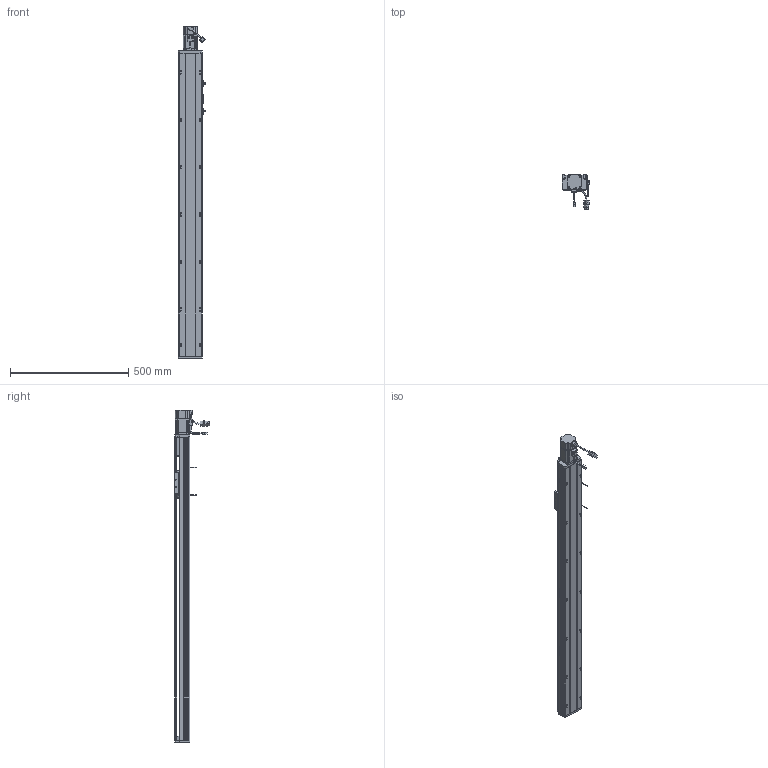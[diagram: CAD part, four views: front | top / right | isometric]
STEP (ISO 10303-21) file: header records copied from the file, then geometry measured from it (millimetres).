
FILE_DESCRIPTION (( 'STEP AP214' ), '1' );
FILE_NAME ('CTH10-1050.STEP', '2019-11-18T08:25:30', ( '微软用户' ), ( '微软中国' ), 'SwSTEP 2.0', 'SolidWorks 2017', '' );
FILE_SCHEMA (( 'AUTOMOTIVE_DESIGN' ));
Length unit declared in the file: millimetre
Products named in the file (34): COL12B-粣遠; 粣創揤啣; 噩砃MGN12C-2R420-Z0CHC; 7001-DF; 噩砃MGN12C-R1; BEARING_BaseModel20190604090351; 噩砃MGN12C; CTH10-粣創釱; 噩砃M3-L10囀鞠褒蹟佪; 怢湛200W侜督萇儂ECMA-CX0602ES; MGN12C-2R420-Z0CHC; CTH10-盖板_默认<按加工>; MGN12C-R1; SFH1605; MGN12C; SFH1605-288; 100耀郪-覜茼んえ; CTH10-侜督萇儂啣; M3-L8囀鞠褒蹟佪; CTH10-傷啣; EE-SX672; CTH10-盓傅釱; M4-L6半圆头内六角螺丝; CTH10-蹟簽蟀諉啣; 6000Z粣創; CTH10-移动座_默认<按加工>; 遣喳蝶15x12x8; CTH10-底座_默认<按加工>; M5-L20囀鞠褒蹟佪; CTH10粣創釱蚾饜极; CTH10-1050; M3-L10囀鞠褒蹟佪; M4-L8囀鞠褒蹟佪; 坶踡蹟譫
Assembly tree (100 placements, depth 4):
  CTH10-1050
    CTH10-底座_默认<按加工>
    CTH10-移动座_默认<按加工>
    CTH10-蹟簽蟀諉啣
    CTH10-盓傅釱
    CTH10-傷啣
    CTH10-侜督萇儂啣
    SFH1605-288
    SFH1605
    CTH10-盖板_默认<按加工>
    怢湛200W侜督萇儂ECMA-CX0602ES
    CTH10粣創釱蚾饜极
      CTH10-粣創釱
      7001-DF
        BEARING_BaseModel20190604090351  x2
      粣創揤啣
      COL12B-粣遠  x2
      坶踡蹟譫
      M4-L8囀鞠褒蹟佪  x4
      M3-L10囀鞠褒蹟佪  x6
    M3-L10囀鞠褒蹟佪  x19
    M5-L20囀鞠褒蹟佪  x4
    遣喳蝶15x12x8  x3
    6000Z粣創
    M4-L6半圆头内六角螺丝  x4
    M4-L8囀鞠褒蹟佪  x8
    EE-SX672  x2
    M3-L8囀鞠褒蹟佪  x4
    100耀郪-覜茼んえ
    MGN12C-2R420-Z0CHC
      MGN12C
      MGN12C-R1  x2
      M3-L10囀鞠褒蹟佪  x8
    噩砃M3-L10囀鞠褒蹟佪
    噩砃MGN12C-2R420-Z0CHC
      噩砃MGN12C
      噩砃MGN12C-R1  x2
      噩砃M3-L10囀鞠褒蹟佪  x8
Bounding box: 114.24 x 151.37 x 1402 mm (x, y, z)
Volume: 3429421.9 mm3; surface area: 1300248.1 mm2
Topology: 96 solids, 105 shells, 4837 faces, 12322 edges, 7706 vertices
Faces by surface type: plane 2374, cylinder 1576, cone 601, bspline 241, torus 33, sphere 12
Entity records: 106166 total; most frequent: CARTESIAN_POINT 32042, ORIENTED_EDGE 15148, DIRECTION 14593, EDGE_CURVE 7574, AXIS2_PLACEMENT_3D 5274, VERTEX_POINT 4920, VECTOR 4045, LINE 4045
